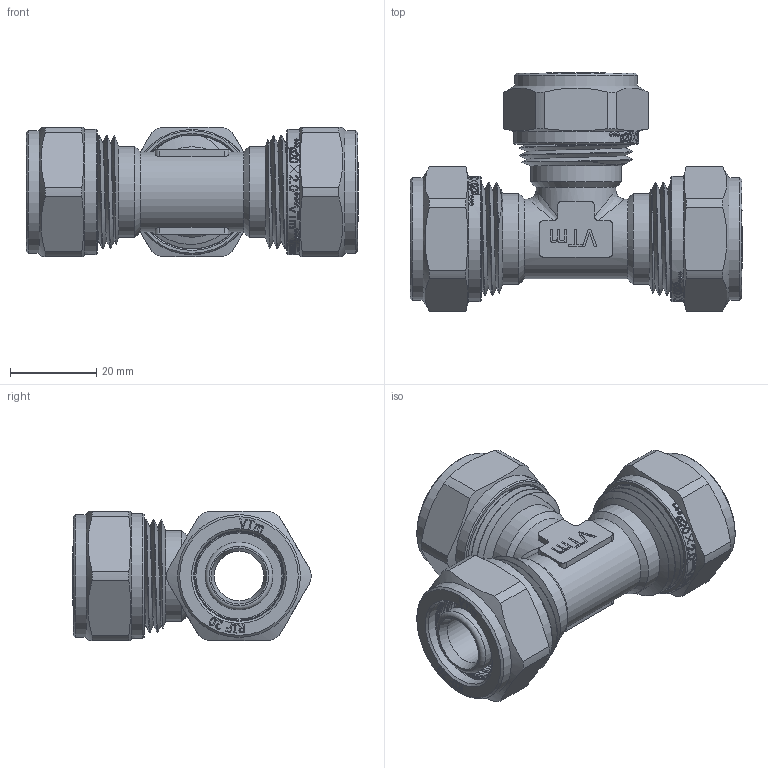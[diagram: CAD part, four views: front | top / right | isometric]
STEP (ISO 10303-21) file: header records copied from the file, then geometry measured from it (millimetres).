
FILE_DESCRIPTION(/* description */ (''),/* implementation_level */ '2;1');
FILE_NAME(/* name */ 'E:\Артём\00000\Работа удаленка\Обжимные фитинги\VTm.331.N.202020.stp',/* time_stamp */ '2020-06-30T13:00:57+03:00',/* author */ ('BeN_GaN'),/* organization */ (''),/* preprocessor_version */ 'ST-DEVELOPER v18',/* originating_system */ 'Autodesk Inventor 2020',/* authorisation */ '');
FILE_SCHEMA (('AUTOMOTIVE_DESIGN { 1 0 10303 214 3 1 1 }'));
Length unit declared in the file: millimetre
Products named in the file (1): VTm.331.N.202020
Bounding box: 77 x 55.22 x 30 mm (x, y, z)
Volume: 35762 mm3; surface area: 27325 mm2
Topology: 1 solids, 4 shells, 1970 faces, 5536 edges, 3732 vertices
Faces by surface type: bspline 1064, plane 553, cylinder 242, torus 66, cone 45
Full cylindrical faces by diameter (mm): 11.5 x2, 13.4 x6, 15.75 x12, 18.5 x2, 19.986 x12, 20.2 x3, 20.728 x15, 21 x6, 22.8 x9, 23.201 x3, 24.2 x6, 26.4 x5, 28.5 x3, 29 x3
Entity records: 86140 total; most frequent: CARTESIAN_POINT 41885, ORIENTED_EDGE 11084, DIRECTION 5960, EDGE_CURVE 5542, VERTEX_POINT 3738, LINE 2356, VECTOR 2356, B_SPLINE_CURVE_WITH_KNOTS 2255
